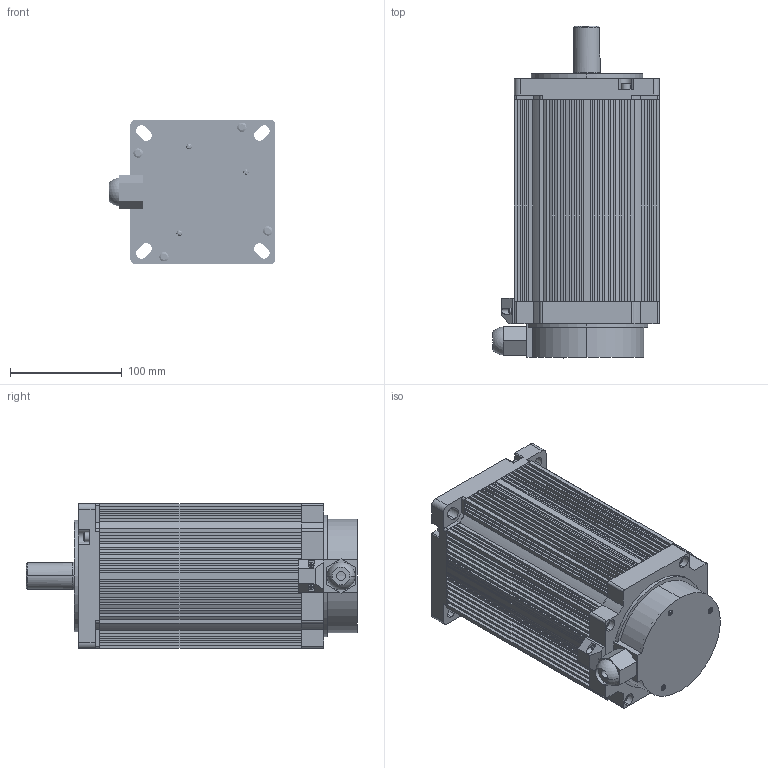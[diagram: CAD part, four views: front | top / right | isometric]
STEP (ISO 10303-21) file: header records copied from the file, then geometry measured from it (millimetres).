
FILE_DESCRIPTION (( 'STEP AP203' ), '1' );
FILE_NAME ('130-35N闭环.STEP', '2026-01-20T06:01:20', ( '微软用户' ), ( '微软中国' ), 'SwSTEP 2.0', 'SolidWorks 2022', '' );
FILE_SCHEMA (( 'CONFIG_CONTROL_DESIGN' ));
Length unit declared in the file: millimetre
Products named in the file (12): 20040324; 錨璃1; 40010183; 11; 20230033; 揤盄啣; 20040323; 蹟裝; 20031015; 蚐猾; 130-35N敕遠; GB_CROSS_SCREWS_TYPE1 M2.5X6-6  H type-S_GB_CROSS_SCREWS_TYPE1 M2.5X6-6  H type-S
Assembly tree (21 placements, depth 2):
  130-35N敕遠
    20040323
    20040324
    20230033
    40010183
    錨璃1
    蹟裝  x8
    蚐猾
    11  x3
    20031015
    揤盄啣
    GB_CROSS_SCREWS_TYPE1 M2.5X6-6  H type-S_GB_CROSS_SCREWS_TYPE1 M2.5X6-6  H type-S  x2
Bounding box: 149.6 x 297.6 x 130 mm (x, y, z)
Volume: 2131694.1 mm3; surface area: 571126.2 mm2
Topology: 21 solids, 21 shells, 1808 faces, 4868 edges, 3147 vertices
Faces by surface type: cylinder 927, plane 654, cone 167, bspline 32, sphere 28
Entity records: 40818 total; most frequent: CARTESIAN_POINT 12548, ORIENTED_EDGE 5658, DIRECTION 5597, EDGE_CURVE 2829, VECTOR 1885, LINE 1885, AXIS2_PLACEMENT_3D 1856, VERTEX_POINT 1842
